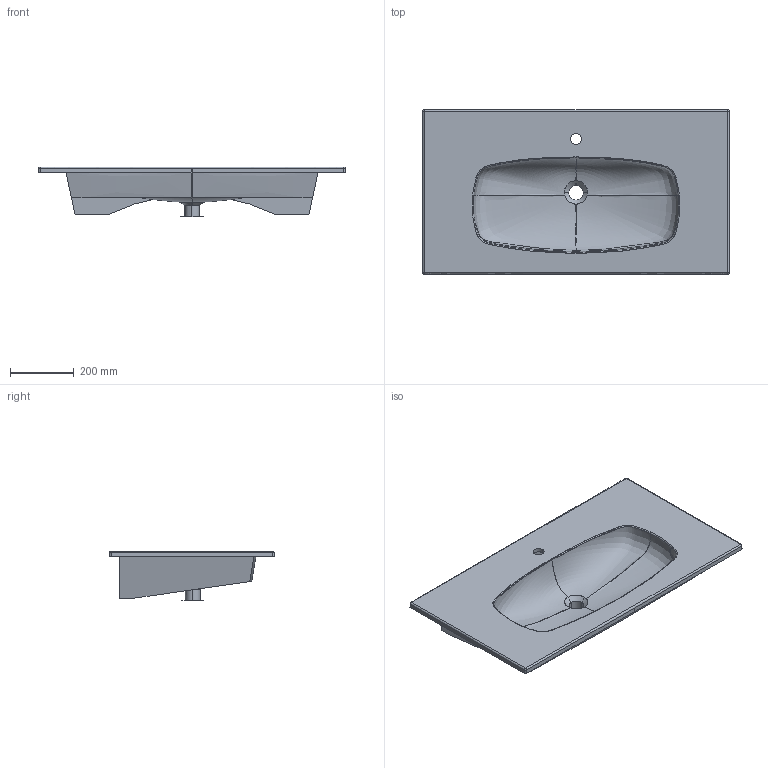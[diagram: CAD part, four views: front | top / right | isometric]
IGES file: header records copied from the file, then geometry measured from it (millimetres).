
Start section: START RECORD GO HERE.
Global section: file name: 3D Mabelle 96.igs; native system: DASSAULT SYSTEMES CATIA V5 R19 - www.3ds.com; preprocessor: CATIA Version 5 Release 19 SP 5 ; author: Luca; organization: DESKTOP-V7SON24; date: 20190410.123436; units: millimetre
Bounding box: 961.26 x 515.63 x 156.5 mm (x, y, z)
Surface area: 933515.5 mm2 (no closed solid volume)
Topology: 0 solids, 0 shells, 61 faces, 306 edges, 304 vertices
Faces by surface type: bspline 30, revolution 18, plane 11, extrusion 2
